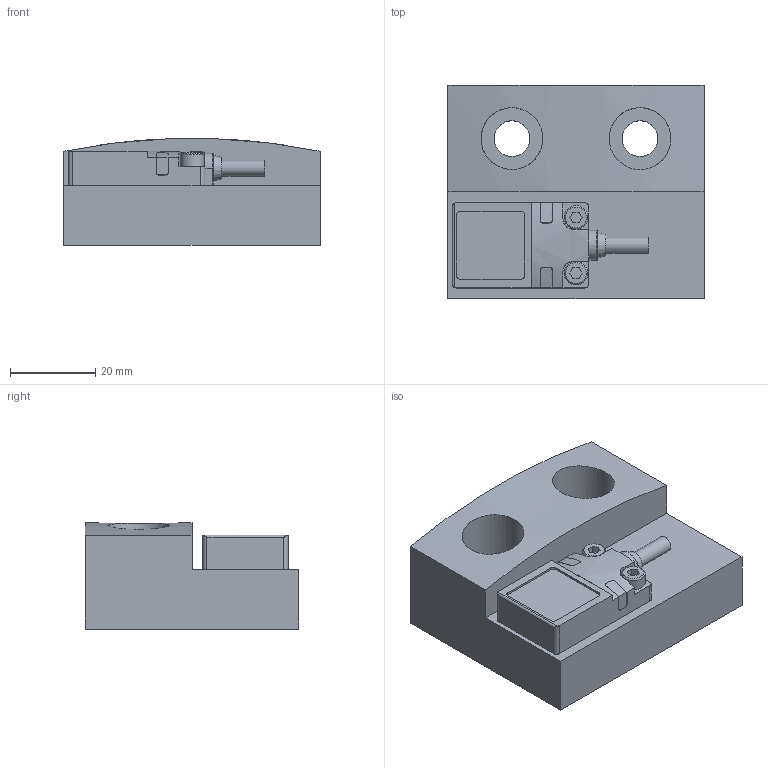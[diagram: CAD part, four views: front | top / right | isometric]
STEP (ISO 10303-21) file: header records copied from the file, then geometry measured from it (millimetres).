
FILE_DESCRIPTION(/* description */ ('PANCAKE STOP ASSEMBLY'),/* implementation_level */ '2;1');
FILE_NAME(/* name */ 'C:\Users\rcarver\Desktop\PANCAKE STOPS\WPS-02-XX.stp',/* time_stamp */ '2016-12-20T14:49:00-05:00',/* author */ ('rcarver'),/* organization */ (''),/* preprocessor_version */ 'ST-DEVELOPER v16.5',/* originating_system */ 'Autodesk Inventor 2017',/* authorisation */ '');
FILE_SCHEMA (('AUTOMOTIVE_DESIGN { 1 0 10303 214 3 1 1 }'));
Length unit declared in the file: millimetre
Products named in the file (4): WPSL01; WPSE02; NBB5-F104M-E2-C-200MM-V1; M3X0.5-8 SHCS
Assembly tree (4 placements, depth 2):
  WPSL01
    WPSE02
    NBB5-F104M-E2-C-200MM-V1
    M3X0.5-8 SHCS  x2
Bounding box: 60 x 50 x 24.88 mm (x, y, z)
Volume: 56622.1 mm3; surface area: 15308.4 mm2
Topology: 4 solids, 4 shells, 132 faces, 331 edges, 217 vertices
Faces by surface type: plane 76, cylinder 47, cone 7, torus 2
Full cylindrical faces by diameter (mm): 2.459 x2, 3 x2, 3.3 x2, 3.8 x1, 5.5 x2, 8.376 x2, 14.5 x2
Entity records: 3836 total; most frequent: CARTESIAN_POINT 800, DIRECTION 604, ORIENTED_EDGE 562, EDGE_CURVE 281, AXIS2_PLACEMENT_3D 215, VERTEX_POINT 194, LINE 174, VECTOR 174
